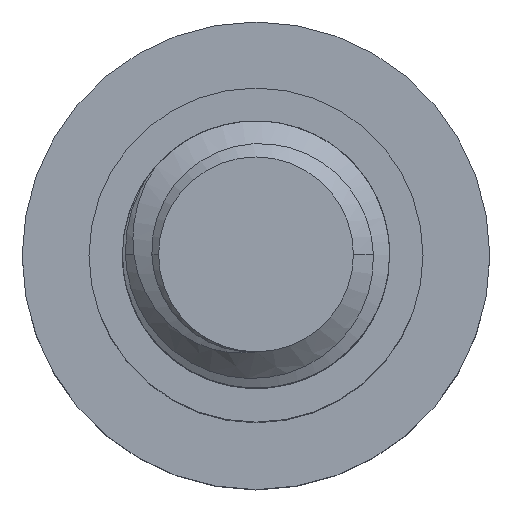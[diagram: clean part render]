
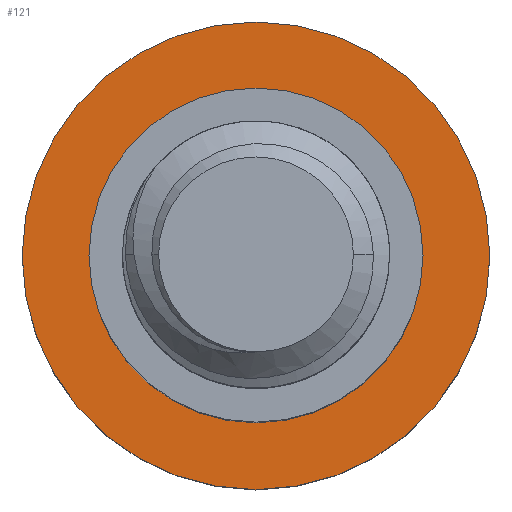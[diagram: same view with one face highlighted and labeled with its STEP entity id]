
A CAD part, top view. The second image highlights one B-rep face of the part: STEP entity #121.
In plain terms, the highlighted planar face has unit normal (0, 0, 1).
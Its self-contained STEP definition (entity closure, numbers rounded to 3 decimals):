
#28 = AXIS2_PLACEMENT_3D ( 'NONE', #1184, #1508, #3798 ) ;
#37 = ORIENTED_EDGE ( 'NONE', *, *, #1718, .T. ) ;
#121 = ADVANCED_FACE ( 'NONE', ( #3474, #521 ), #2125, .F. ) ;
#184 = VERTEX_POINT ( 'NONE', #1578 ) ;
#365 = CIRCLE ( 'NONE', #2784, 7. ) ;
#521 = FACE_OUTER_BOUND ( 'NONE', #1980, .T. ) ;
#902 = DIRECTION ( 'NONE',  ( 0., 0., -1. ) ) ;
#1184 = CARTESIAN_POINT ( 'NONE',  ( 0., 0., -12. ) ) ;
#1257 = CIRCLE ( 'NONE', #3670, 5. ) ;
#1287 = EDGE_LOOP ( 'NONE', ( #3874, #37 ) ) ;
#1318 = EDGE_CURVE ( 'NONE', #2298, #184, #1745, .T. ) ;
#1329 = VERTEX_POINT ( 'NONE', #2851 ) ;
#1403 = DIRECTION ( 'NONE',  ( 0., 0., -1. ) ) ;
#1470 = VERTEX_POINT ( 'NONE', #3034 ) ;
#1508 = DIRECTION ( 'NONE',  ( 0., 0., -1. ) ) ;
#1578 = CARTESIAN_POINT ( 'NONE',  ( -7., 0., -12. ) ) ;
#1686 = ORIENTED_EDGE ( 'NONE', *, *, #1318, .F. ) ;
#1718 = EDGE_CURVE ( 'NONE', #1329, #1470, #1257, .T. ) ;
#1742 = AXIS2_PLACEMENT_3D ( 'NONE', #3429, #3152, #2834 ) ;
#1745 = CIRCLE ( 'NONE', #28, 7. ) ;
#1805 = CARTESIAN_POINT ( 'NONE',  ( 0., 0., -12. ) ) ;
#1980 = EDGE_LOOP ( 'NONE', ( #1686, #3696 ) ) ;
#2125 = PLANE ( 'NONE',  #1742 ) ;
#2243 = CARTESIAN_POINT ( 'NONE',  ( 0., 0., -12. ) ) ;
#2298 = VERTEX_POINT ( 'NONE', #3550 ) ;
#2514 = AXIS2_PLACEMENT_3D ( 'NONE', #3338, #1403, #2809 ) ;
#2518 = EDGE_CURVE ( 'NONE', #184, #2298, #365, .T. ) ;
#2784 = AXIS2_PLACEMENT_3D ( 'NONE', #2243, #902, #2947 ) ;
#2803 = DIRECTION ( 'NONE',  ( 0., 0., -1. ) ) ;
#2809 = DIRECTION ( 'NONE',  ( -1., 0., 0. ) ) ;
#2834 = DIRECTION ( 'NONE',  ( -1., 0., 0. ) ) ;
#2851 = CARTESIAN_POINT ( 'NONE',  ( 5., 0., -12. ) ) ;
#2947 = DIRECTION ( 'NONE',  ( -1., 0., 0. ) ) ;
#3034 = CARTESIAN_POINT ( 'NONE',  ( -5., 0., -12. ) ) ;
#3152 = DIRECTION ( 'NONE',  ( 0., 0., -1. ) ) ;
#3338 = CARTESIAN_POINT ( 'NONE',  ( 0., 0., -12. ) ) ;
#3429 = CARTESIAN_POINT ( 'NONE',  ( 0., 0., -12. ) ) ;
#3474 = FACE_BOUND ( 'NONE', #1287, .T. ) ;
#3550 = CARTESIAN_POINT ( 'NONE',  ( 7., 0., -12. ) ) ;
#3670 = AXIS2_PLACEMENT_3D ( 'NONE', #1805, #2803, #4120 ) ;
#3696 = ORIENTED_EDGE ( 'NONE', *, *, #2518, .F. ) ;
#3754 = CIRCLE ( 'NONE', #2514, 5. ) ;
#3798 = DIRECTION ( 'NONE',  ( -1., 0., 0. ) ) ;
#3874 = ORIENTED_EDGE ( 'NONE', *, *, #4202, .T. ) ;
#4120 = DIRECTION ( 'NONE',  ( -1., 0., 0. ) ) ;
#4202 = EDGE_CURVE ( 'NONE', #1470, #1329, #3754, .T. ) ;
